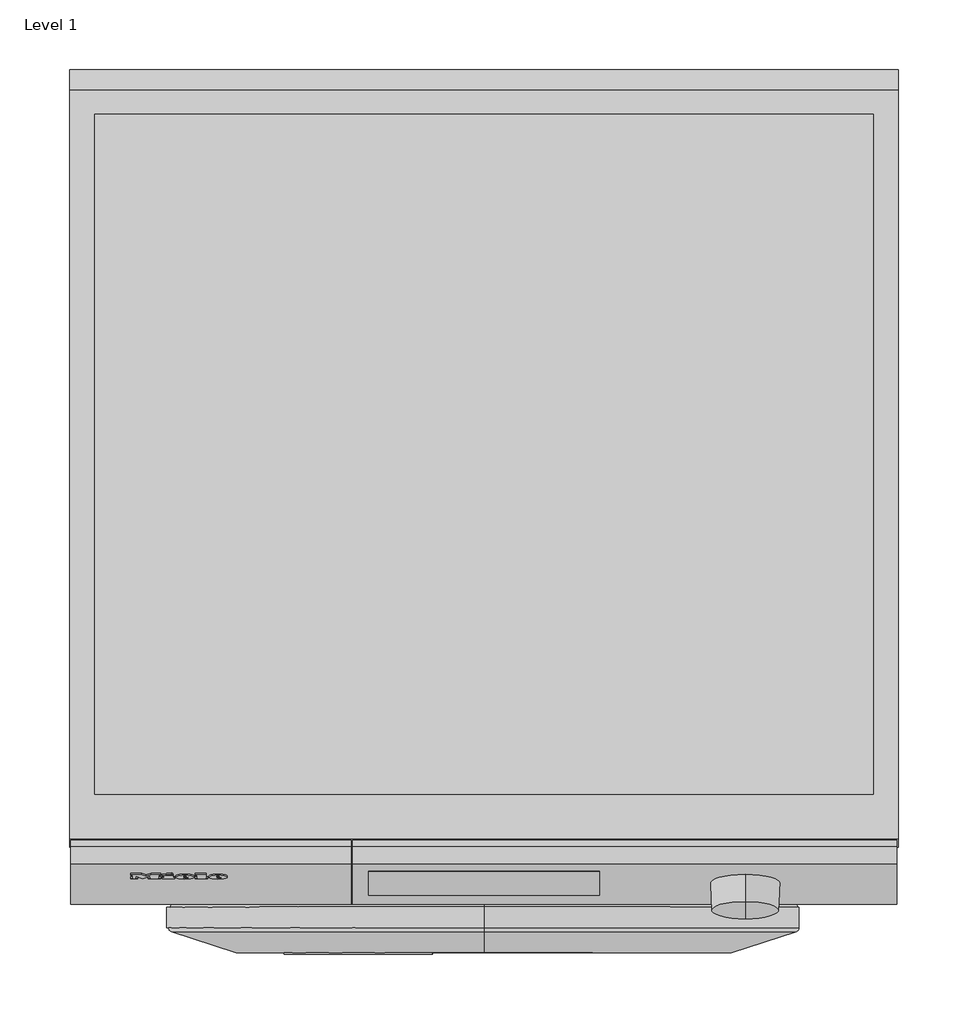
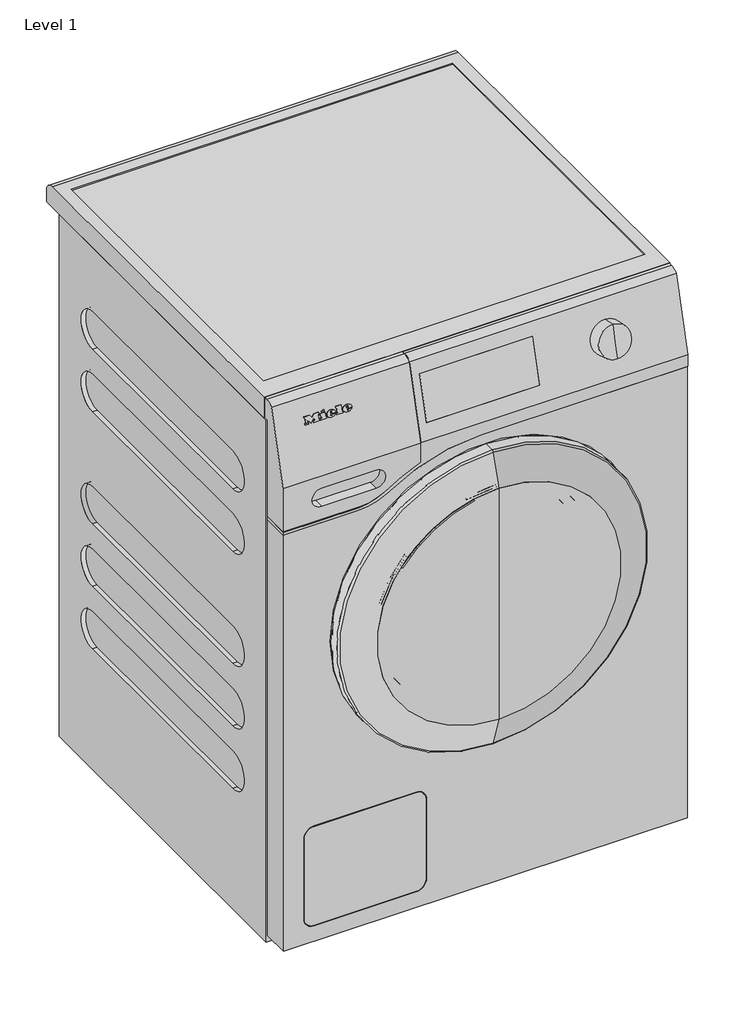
# One storey: 1 proxy.
"""IFC4 building model written with IfcOpenShell, lengths in millimetres."""

from ifc_helpers import new_model, si_unit, origin, place, context, project, spatial, transform, mapped, element, save
from components import specialty_equipment_56a88420, specialty_equipment_e664911a

model = new_model("IFC4")

# Units and contexts
model_context = context("Model", 3, world=origin())
ifc_project = project(units=[si_unit("LENGTHUNIT", "METRE", prefix="MILLI")], contexts=[model_context])

# Site, building, storey
site = spatial("IfcSite", under=ifc_project)
building = spatial("IfcBuilding", under=site)
storey = spatial("IfcBuildingStorey", under=building, Name="Level 1", Elevation=0.0)

# Proxy
placement = place(None, origin())
specialty_equipment_shape = specialty_equipment_56a88420(model_context)
specialty_equipment_2_shape = specialty_equipment_e664911a(model_context)
element("IfcBuildingElementProxy", 1, Name="11360910_I_WCD330WCS_LW : 11CD3301_I_11360910_WCD330WCS_LW", ObjectType="11360910_I_WCD330WCS_LW : 11CD3301_I_11360910_WCD330WCS_LW", at=placement, inside=storey, context=model_context, shape_type="MappedRepresentation", body=[
    mapped(specialty_equipment_shape, transform((0.0, 0.0, 0.0), x_axis=(1.0, 0.0, 0.0), y_axis=(0.0, 1.0, 0.0), z_axis=(0.0, 0.0, 1.0))),
    mapped(specialty_equipment_2_shape, transform((0.0, 0.0, 0.0), x_axis=(1.0, 0.0, 0.0), y_axis=(0.0, 1.0, 0.0), z_axis=(0.0, 0.0, 1.0))),
])

save(model, "model.ifc")
